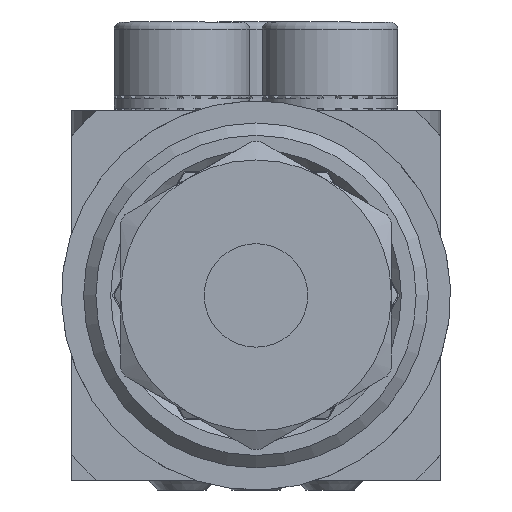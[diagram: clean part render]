
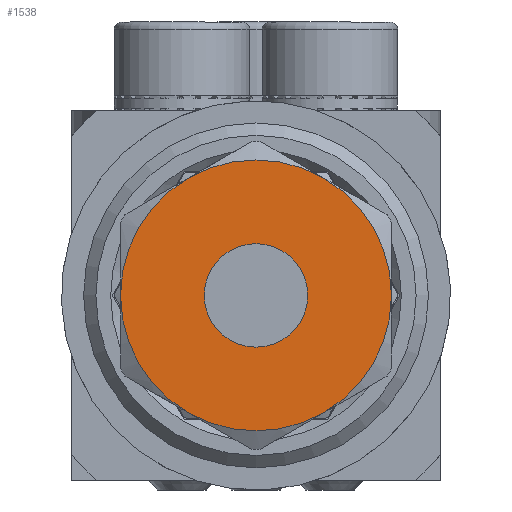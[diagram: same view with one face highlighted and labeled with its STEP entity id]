
A CAD part, left-side view. The second image highlights one B-rep face of the part: STEP entity #1538.
In plain terms, the highlighted planar face has unit normal (-1, 0, 0) as drawn and (0, -1, 0) by its records, which use the part's own axes.
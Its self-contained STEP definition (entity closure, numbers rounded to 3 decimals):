
#1538=ADVANCED_FACE('',(#2706,#2707),#2708,.F.);
#2706=FACE_BOUND('',#4943,.T.);
#2707=FACE_OUTER_BOUND('',#4944,.T.);
#2708=PLANE('',#4945);
#4943=EDGE_LOOP('',(#7820));
#4944=EDGE_LOOP('',(#7821,#7822,#7823,#7824,#7825,#7826));
#4945=AXIS2_PLACEMENT_3D('',#7827,#7828,#7829);
#7820=ORIENTED_EDGE('',*,*,#9721,.T.);
#7821=ORIENTED_EDGE('',*,*,#9722,.T.);
#7822=ORIENTED_EDGE('',*,*,#9723,.T.);
#7823=ORIENTED_EDGE('',*,*,#9724,.T.);
#7824=ORIENTED_EDGE('',*,*,#9725,.T.);
#7825=ORIENTED_EDGE('',*,*,#9726,.T.);
#7826=ORIENTED_EDGE('',*,*,#9727,.T.);
#7827=CARTESIAN_POINT('',(-3.125,0.,0.0));
#7828=DIRECTION('',(0.0,1.0,0.0));
#7829=DIRECTION('',(0.0,0.0,1.0));
#9721=EDGE_CURVE('',#11588,#11588,#11589,.T.);
#9722=EDGE_CURVE('',#11590,#11591,#11592,.F.);
#9723=EDGE_CURVE('',#11591,#11593,#11594,.F.);
#9724=EDGE_CURVE('',#11593,#11543,#11595,.F.);
#9725=EDGE_CURVE('',#11543,#11596,#11597,.F.);
#9726=EDGE_CURVE('',#11596,#11564,#11598,.F.);
#9727=EDGE_CURVE('',#11564,#11590,#11599,.F.);
#11543=VERTEX_POINT('',#14277);
#11564=VERTEX_POINT('',#14332);
#11588=VERTEX_POINT('',#14401);
#11589=CIRCLE('',#14402,2.1);
#11590=VERTEX_POINT('',#14403);
#11591=VERTEX_POINT('',#14404);
#11592=CIRCLE('',#14405,5.5);
#11593=VERTEX_POINT('',#14406);
#11594=CIRCLE('',#14407,5.5);
#11595=CIRCLE('',#14408,5.5);
#11596=VERTEX_POINT('',#14409);
#11597=CIRCLE('',#14410,5.5);
#11598=CIRCLE('',#14411,5.5);
#11599=CIRCLE('',#14412,5.5);
#14277=CARTESIAN_POINT('',(2.75,0.,-4.763));
#14332=CARTESIAN_POINT('',(2.75,0.,4.763));
#14401=CARTESIAN_POINT('',(0.0,0.0,2.1));
#14402=AXIS2_PLACEMENT_3D('',#16521,#16522,#16523);
#14403=CARTESIAN_POINT('',(-2.75,0.,4.763));
#14404=CARTESIAN_POINT('',(-5.5,0.,0.));
#14405=AXIS2_PLACEMENT_3D('',#16524,#16525,#16526);
#14406=CARTESIAN_POINT('',(-2.75,0.,-4.763));
#14407=AXIS2_PLACEMENT_3D('',#16527,#16528,#16529);
#14408=AXIS2_PLACEMENT_3D('',#16530,#16531,#16532);
#14409=CARTESIAN_POINT('',(5.5,0.,0.));
#14410=AXIS2_PLACEMENT_3D('',#16533,#16534,#16535);
#14411=AXIS2_PLACEMENT_3D('',#16536,#16537,#16538);
#14412=AXIS2_PLACEMENT_3D('',#16539,#16540,#16541);
#16521=CARTESIAN_POINT('',(0.0,0.0,0.0));
#16522=DIRECTION('',(0.0,1.0,0.0));
#16523=DIRECTION('',(0.0,0.0,1.0));
#16524=CARTESIAN_POINT('',(0.0,0.,0.0));
#16525=DIRECTION('',(0.0,1.0,0.0));
#16526=DIRECTION('',(0.0,0.0,1.0));
#16527=CARTESIAN_POINT('',(0.0,0.,0.0));
#16528=DIRECTION('',(0.0,1.0,0.0));
#16529=DIRECTION('',(0.0,0.0,1.0));
#16530=CARTESIAN_POINT('',(0.0,0.,0.0));
#16531=DIRECTION('',(0.0,1.0,0.0));
#16532=DIRECTION('',(0.0,0.0,1.0));
#16533=CARTESIAN_POINT('',(0.0,0.,0.0));
#16534=DIRECTION('',(0.0,1.0,0.0));
#16535=DIRECTION('',(0.0,0.0,1.0));
#16536=CARTESIAN_POINT('',(0.0,0.,0.0));
#16537=DIRECTION('',(0.0,1.0,0.0));
#16538=DIRECTION('',(0.0,0.0,1.0));
#16539=CARTESIAN_POINT('',(0.0,0.,0.0));
#16540=DIRECTION('',(0.0,1.0,0.0));
#16541=DIRECTION('',(0.0,0.0,1.0));
